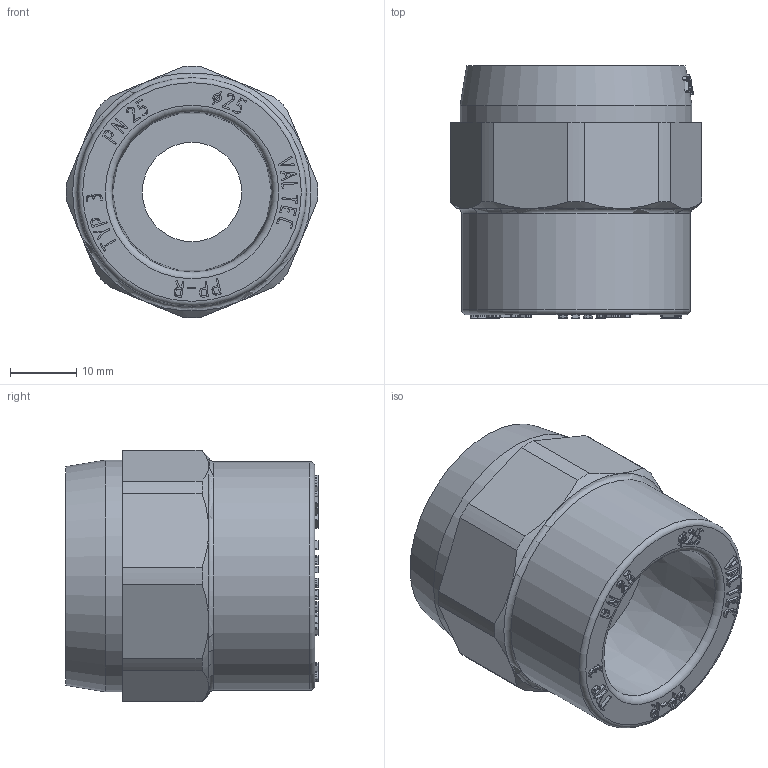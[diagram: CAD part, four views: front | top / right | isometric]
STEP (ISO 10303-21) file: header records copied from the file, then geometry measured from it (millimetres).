
FILE_DESCRIPTION(('STEP AP203'), '1');
FILE_NAME('ÂÐ.753153.010 - VTp.702.0.02504', '', ('UNSPECIFIED'), ('UNSPECIFIED'), 'C3D Converter', 'C3D Toolkit', '');
FILE_SCHEMA(('CONFIG_CONTROL_DESIGN'));
Length unit declared in the file: millimetre
Products named in the file (4): ВР.753153.010; ВР.302639.014.000; ВР.713661.001
Assembly tree (3 placements, depth 3):
  ВР.753153.010
    ВР.302639.014.000
      ВР.713661.001
      (unnamed)
Bounding box: 37.99 x 38.03 x 37.99 mm (x, y, z)
Volume: 24751 mm3; surface area: 15238.8 mm2
Topology: 3 solids, 3 shells, 845 faces, 2302 edges, 1531 vertices
Faces by surface type: extrusion 432, plane 328, cylinder 56, cone 21, torus 8
Full cylindrical faces by diameter (mm): 15 x1, 18.8 x1, 21.5 x2, 24 x8, 28 x10, 34.5 x1, 35 x1
Entity records: 29847 total; most frequent: CARTESIAN_POINT 10137, ORIENTED_EDGE 4518, DIRECTION 2722, EDGE_CURVE 2259, VECTOR 1570, VERTEX_POINT 1524, B_SPLINE_CURVE_WITH_KNOTS 1399, LINE 1138
